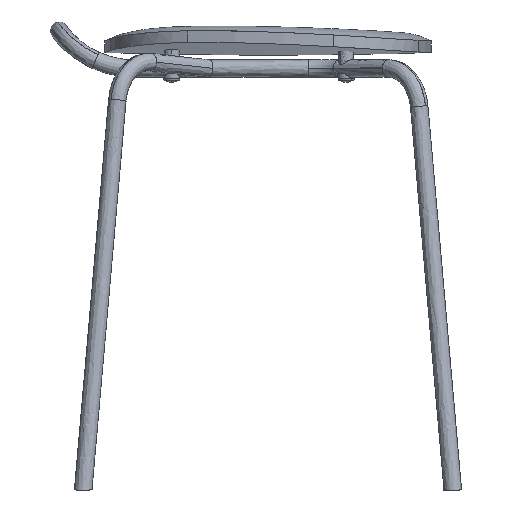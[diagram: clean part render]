
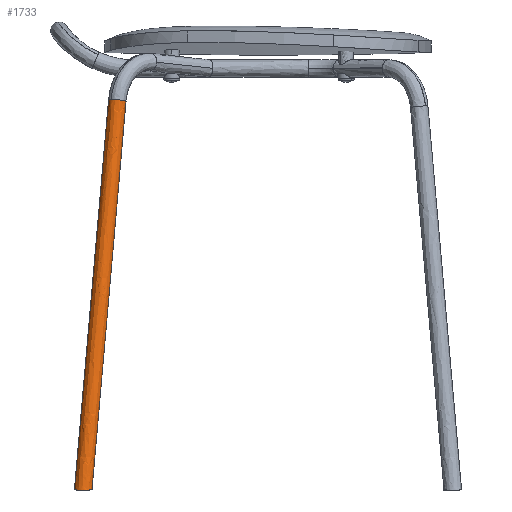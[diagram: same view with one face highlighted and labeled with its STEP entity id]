
A CAD part, left-side view. The second image highlights one B-rep face of the part: STEP entity #1733.
In plain terms, the highlighted free-form (B-spline) face has degree [2, 1] with [9, 2] control points.
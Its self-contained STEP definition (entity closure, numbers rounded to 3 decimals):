
#272=(
BOUNDED_CURVE()
B_SPLINE_CURVE(2,(#32868,#32869,#32870,#32871,#32872),.UNSPECIFIED.,.F.,
 .F.)
B_SPLINE_CURVE_WITH_KNOTS((3,2,3),(-3.884,-2.704,
-1.524),.UNSPECIFIED.)
CURVE()
GEOMETRIC_REPRESENTATION_ITEM()
RATIONAL_B_SPLINE_CURVE((1.,0.831,1.,0.831,1.))
REPRESENTATION_ITEM('')
);
#273=(
BOUNDED_CURVE()
B_SPLINE_CURVE(2,(#32875,#32876,#32877),.UNSPECIFIED.,.F.,.F.)
B_SPLINE_CURVE_WITH_KNOTS((3,3),(-0.782,0.),.UNSPECIFIED.)
CURVE()
GEOMETRIC_REPRESENTATION_ITEM()
RATIONAL_B_SPLINE_CURVE((1.,0.925,1.))
REPRESENTATION_ITEM('')
);
#274=(
BOUNDED_CURVE()
B_SPLINE_CURVE(3,(#32884,#32885,#32886,#32887),.UNSPECIFIED.,.F.,.F.)
B_SPLINE_CURVE_WITH_KNOTS((4,4),(1.,2.),.UNSPECIFIED.)
CURVE()
GEOMETRIC_REPRESENTATION_ITEM()
RATIONAL_B_SPLINE_CURVE((1.,0.333,0.333,1.))
REPRESENTATION_ITEM('')
);
#737=(
BOUNDED_SURFACE()
B_SPLINE_SURFACE(2,1,((#32841,#32842),(#32843,#32844),(#32845,#32846),(#32847,
#32848),(#32849,#32850),(#32851,#32852),(#32853,#32854),(#32855,#32856),
(#32857,#32858)),.UNSPECIFIED.,.F.,.F.,.F.)
B_SPLINE_SURFACE_WITH_KNOTS((3,2,2,2,3),(2,2),(2.749,3.632,
4.516,5.4,6.283),(0.,1.),
 .UNSPECIFIED.)
GEOMETRIC_REPRESENTATION_ITEM()
RATIONAL_B_SPLINE_SURFACE(((1.,1.),(0.904,0.904),
(1.,1.),(0.904,0.904),(1.,1.),(0.904,
0.904),(1.,1.),(0.904,0.904),(1.,1.)))
REPRESENTATION_ITEM('')
SURFACE()
);
#1733=ADVANCED_FACE('',(#1983),#737,.T.);
#1983=FACE_OUTER_BOUND('',#2253,.T.);
#2253=EDGE_LOOP('',(#3068,#3069,#3070,#3071,#3072));
#3068=ORIENTED_EDGE('',*,*,#8016,.T.);
#3069=ORIENTED_EDGE('',*,*,#8017,.T.);
#3070=ORIENTED_EDGE('',*,*,#8018,.T.);
#3071=ORIENTED_EDGE('',*,*,#8019,.T.);
#3072=ORIENTED_EDGE('',*,*,#8020,.T.);
#4306=PCURVE('',#737,#5544);
#4307=PCURVE('',#737,#5545);
#4308=PCURVE('',#737,#5546);
#4309=PCURVE('',#737,#5547);
#4310=PCURVE('',#737,#5548);
#5544=DEFINITIONAL_REPRESENTATION('',(#9699),#75785);
#5545=DEFINITIONAL_REPRESENTATION('',(#9700),#75785);
#5546=DEFINITIONAL_REPRESENTATION('',(#9701),#75785);
#5547=DEFINITIONAL_REPRESENTATION('',(#9703),#75785);
#5548=DEFINITIONAL_REPRESENTATION('',(#9704),#75785);
#6780=SURFACE_CURVE('',#9698,(#4306),.PCURVE_S1.);
#6781=SURFACE_CURVE('',#272,(#4307),.PCURVE_S1.);
#6782=SURFACE_CURVE('',#273,(#4308),.PCURVE_S1.);
#6783=SURFACE_CURVE('',#9702,(#4309),.PCURVE_S1.);
#6784=SURFACE_CURVE('',#274,(#4310),.PCURVE_S1.);
#8016=EDGE_CURVE('',#11157,#11158,#6780,.T.);
#8017=EDGE_CURVE('',#11158,#11155,#6781,.T.);
#8018=EDGE_CURVE('',#11155,#11154,#6782,.T.);
#8019=EDGE_CURVE('',#11154,#11156,#6783,.T.);
#8020=EDGE_CURVE('',#11156,#11157,#6784,.T.);
#9698=B_SPLINE_CURVE_WITH_KNOTS('',1,(#32864,#32865),.UNSPECIFIED.,.F.,
 .F.,(2,2),(0.,1.),.UNSPECIFIED.);
#9699=B_SPLINE_CURVE_WITH_KNOTS('',1,(#32866,#32867),.UNSPECIFIED.,.F.,
 .F.,(2,2),(0.,1.),.UNSPECIFIED.);
#9700=B_SPLINE_CURVE_WITH_KNOTS('',1,(#32873,#32874),.UNSPECIFIED.,.F.,
 .F.,(2,2),(-3.884,-1.524),.UNSPECIFIED.);
#9701=B_SPLINE_CURVE_WITH_KNOTS('',1,(#32878,#32879),.UNSPECIFIED.,.F.,
 .F.,(2,2),(-0.782,0.),.UNSPECIFIED.);
#9702=B_SPLINE_CURVE_WITH_KNOTS('',1,(#32880,#32881),.UNSPECIFIED.,.F.,
 .F.,(2,2),(4.142,5.142),.UNSPECIFIED.);
#9703=B_SPLINE_CURVE_WITH_KNOTS('',1,(#32882,#32883),.UNSPECIFIED.,.F.,
 .F.,(2,2),(4.142,5.142),.UNSPECIFIED.);
#9704=B_SPLINE_CURVE_WITH_KNOTS('',3,(#32888,#32889,#32890,#32891,#32892,
#32893,#32894,#32895,#32896,#32897,#32898,#32899,#32900,#32901,#32902,#32903,
#32904,#32905),.UNSPECIFIED.,.F.,.F.,(4,2,2,2,2,2,2,2,4),(1.,1.091,
1.204,1.345,1.499,1.657,1.795,
1.911,2.),.UNSPECIFIED.);
#11154=VERTEX_POINT('',#32859);
#11155=VERTEX_POINT('',#32860);
#11156=VERTEX_POINT('',#32861);
#11157=VERTEX_POINT('',#32862);
#11158=VERTEX_POINT('',#32863);
#32841=CARTESIAN_POINT('',(-350.098,336.306,398.913));
#32842=CARTESIAN_POINT('',(-385.395,371.603,-4.534));
#32843=CARTESIAN_POINT('',(-354.016,334.654,399.111));
#32844=CARTESIAN_POINT('',(-389.313,369.951,-4.336));
#32845=CARTESIAN_POINT('',(-357.756,336.624,399.611));
#32846=CARTESIAN_POINT('',(-393.053,371.921,-3.836));
#32847=CARTESIAN_POINT('',(-361.496,338.595,400.11));
#32848=CARTESIAN_POINT('',(-396.793,373.892,-3.337));
#32849=CARTESIAN_POINT('',(-362.323,342.747,400.546));
#32850=CARTESIAN_POINT('',(-397.62,378.044,-2.901));
#32851=CARTESIAN_POINT('',(-363.15,346.9,400.982));
#32852=CARTESIAN_POINT('',(-398.447,382.197,-2.465));
#32853=CARTESIAN_POINT('',(-360.46,350.199,401.035));
#32854=CARTESIAN_POINT('',(-395.757,385.496,-2.412));
#32855=CARTESIAN_POINT('',(-357.77,353.497,401.088));
#32856=CARTESIAN_POINT('',(-393.067,388.794,-2.359));
#32857=CARTESIAN_POINT('',(-353.529,353.529,400.72));
#32858=CARTESIAN_POINT('',(-388.826,388.826,-2.727));
#32859=CARTESIAN_POINT('',(-353.529,353.529,400.72));
#32860=CARTESIAN_POINT('',(-359.845,350.879,401.041));
#32861=CARTESIAN_POINT('',(-388.588,388.588,0.));
#32862=CARTESIAN_POINT('',(-388.45,370.519,0.));
#32863=CARTESIAN_POINT('',(-353.529,335.598,399.151));
#32864=CARTESIAN_POINT('',(-388.45,370.519,0.));
#32865=CARTESIAN_POINT('',(-353.529,335.598,399.151));
#32866=CARTESIAN_POINT('',(3.142,0.989));
#32867=CARTESIAN_POINT('',(3.142,0.));
#32868=CARTESIAN_POINT('',(-353.529,335.598,399.151));
#32869=CARTESIAN_POINT('',(-359.532,335.552,399.672));
#32870=CARTESIAN_POINT('',(-361.819,341.085,400.356));
#32871=CARTESIAN_POINT('',(-364.106,346.618,401.041));
#32872=CARTESIAN_POINT('',(-359.845,350.879,401.041));
#32873=CARTESIAN_POINT('',(3.142,0.));
#32874=CARTESIAN_POINT('',(5.504,0.));
#32875=CARTESIAN_POINT('',(-359.845,350.879,401.041));
#32876=CARTESIAN_POINT('',(-357.223,353.501,401.041));
#32877=CARTESIAN_POINT('',(-353.529,353.529,400.72));
#32878=CARTESIAN_POINT('',(5.504,0.));
#32879=CARTESIAN_POINT('',(6.283,0.));
#32880=CARTESIAN_POINT('',(-353.529,353.529,400.72));
#32881=CARTESIAN_POINT('',(-388.588,388.588,0.));
#32882=CARTESIAN_POINT('',(6.283,0.));
#32883=CARTESIAN_POINT('',(6.283,0.993));
#32884=CARTESIAN_POINT('',(-388.588,388.588,0.));
#32885=CARTESIAN_POINT('',(-406.656,388.588,0.));
#32886=CARTESIAN_POINT('',(-406.519,370.519,0.));
#32887=CARTESIAN_POINT('',(-388.45,370.519,0.));
#32888=CARTESIAN_POINT('',(6.283,0.993));
#32889=CARTESIAN_POINT('',(6.188,0.993));
#32890=CARTESIAN_POINT('',(6.092,0.994));
#32891=CARTESIAN_POINT('',(5.879,0.994));
#32892=CARTESIAN_POINT('',(5.761,0.994));
#32893=CARTESIAN_POINT('',(5.495,0.994));
#32894=CARTESIAN_POINT('',(5.347,0.994));
#32895=CARTESIAN_POINT('',(5.038,0.994));
#32896=CARTESIAN_POINT('',(4.877,0.994));
#32897=CARTESIAN_POINT('',(4.55,0.993));
#32898=CARTESIAN_POINT('',(4.385,0.993));
#32899=CARTESIAN_POINT('',(4.076,0.992));
#32900=CARTESIAN_POINT('',(3.932,0.991));
#32901=CARTESIAN_POINT('',(3.666,0.991));
#32902=CARTESIAN_POINT('',(3.544,0.99));
#32903=CARTESIAN_POINT('',(3.329,0.99));
#32904=CARTESIAN_POINT('',(3.236,0.99));
#32905=CARTESIAN_POINT('',(3.142,0.989));
#75785=(
GEOMETRIC_REPRESENTATION_CONTEXT(2)
PARAMETRIC_REPRESENTATION_CONTEXT()
REPRESENTATION_CONTEXT('pspace','')
);
